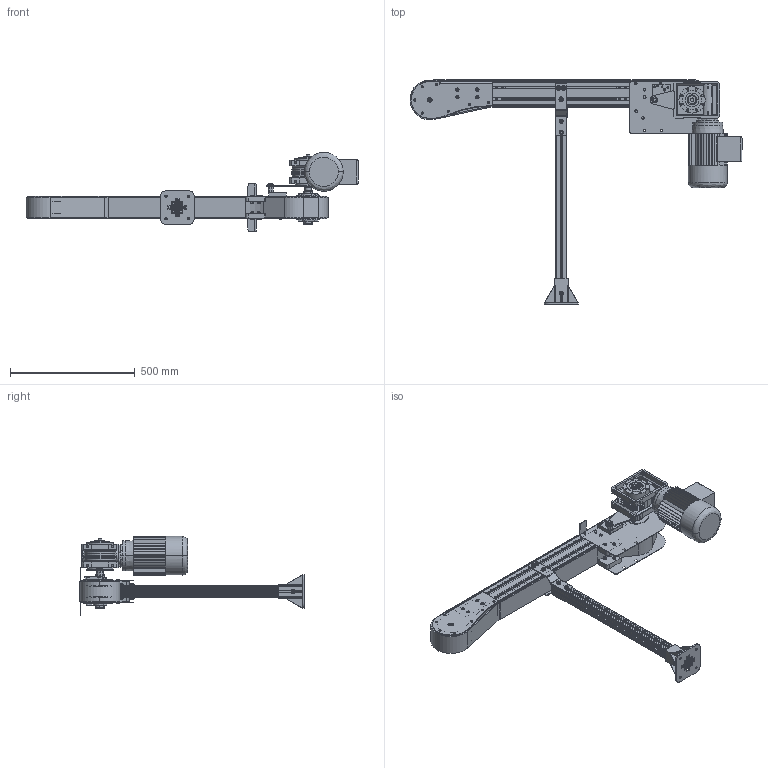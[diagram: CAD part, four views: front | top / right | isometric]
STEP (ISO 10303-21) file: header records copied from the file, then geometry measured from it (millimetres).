
FILE_DESCRIPTION (( 'STEP AP214' ), '1' );
FILE_NAME ('NASTRO_CATENA.step', '2026-05-08T11:39:20', ( 'Utente Windows' ), ( '' ), 'SwSTEP 2.0', 'SolidWorks 2024', '' );
FILE_SCHEMA (( 'AUTOMOTIVE_DESIGN' ));
Length unit declared in the file: millimetre
Products named in the file (57): 084.301.000 VITI ALUSIC1_084.301.003; VITI TCEI UNI 5931 INOX_M6x30 UNI 5931 INOX; VITI TSEI UNI 5933 INOX_0410UNI5933A2; K325_R_P; 2000.325.003; VITI TE UNI 5739 INOX_M8x20 UNI 5739 INOX; 2000.001.201-3; GRANI A PUNTA CONICA UNI 5927_M8x16 UNI 5927; 2000.325.001_Default<Lavorato>; 084.201.012-1; NASTRO_CATENA; RONDELLE FASCIA LARGA UNI 6593 INOX_8.4x32 UNI 6593 INOX; GRANI A PUNTA PIATTA UNI 5923_M8x20 UNI 5923; 2000.325.102; CATENA_DIRITTO; 2000.001.004-3; 2000.001.002; 2000.325.104-2; CH06P_DX; 2000.001.006-2; GAMBE_KP325_Default<A macchina>; 2000.001.213; VITI TE UNI 5739 INOX_M8x16 UNI 5739 INOX; 2000.325.201-1S; 084.302.000 DADI ALUSIC 13x13-1_084.302.004; 084.312.006; 2000.001.003-3; DADI ESAGONALI AUTOBLOCCANTI UNI 7473 INOX_M6 UNI 7473 INOX; 0630UNI8735; VITI TE UNI 5739 INOX_M6x20 UNI 5739 INOX; 2000.001.011; 084.301.000 VITI ALUSIC_084.301.002; K325_DIR_63_P_DX_MOTORE A DESTRA; K325_1_Default<A macchina>; 2000.325.204-4; 2000.001.001; RONDELLE UNI 6592_8.4x17 UNI 6592; 084.802.027; 2000.001.202-3; 2000.325.105-2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
Assembly tree (134 placements, depth 4):
  NASTRO_CATENA
    K325_1_Default<A macchina>
    K325_DIR_63_P_DX_MOTORE A DESTRA
      084.802.027
      2000.001.006-2  x2
      2000.325.003  x2
      2000.001.001  x2
      2000.325.001_Default<Lavorato>  x2
      2000.325.104-2
      2000.001.004-3
      084.808.005-1
      2000.325.102
      2000.001.011
      2000.001.003-3
      2000.325.105-2
      CHIAVETTE_A 8x7x50 UNI 6604-69  x3
      SBPF205  x2
      663151_NS880T12R25
      VITI TSEI UNI 5933 INOX_0410UNI5933A2  x8
      GRANI A PUNTA CONICA UNI 5927_M8x16 UNI 5927  x8
      VITI TCEI UNI 5931 INOX_M6x30 UNI 5931 INOX  x2
      VITI TE UNI 5739 INOX_M8x20 UNI 5739 INOX
      RONDELLE FASCIA LARGA UNI 6593 INOX_8.4x32 UNI 6593 INOX
      GRANI A PUNTA PIATTA UNI 5923_M8x20 UNI 5923
      RONDELLE FASCIA LARGA UNI 6593 INOX_8.4x24 UNI 6593 INOX
      VITI TE UNI 5739 INOX_M8x16 UNI 5739 INOX  x7
      DADI ESAGONALI AUTOBLOCCANTI UNI 7473 INOX_M6 UNI 7473 INOX  x4
      PU008.012.025N
      084.312.006  x6
      VITI TE UNI 5739 INOX_M6x30 UNI 5739 INOX  x4
      VITI TE UNI 5739 INOX_M6x20 UNI 5739 INOX  x6
    K325_R_P
      2000.001.201-3
      2000.001.202-3
      PROFILO POLIZENE_209<A macchina>  x2
      2000.325.201-1S
      2000.325.205-4
      2000.325.204-4
      2000.001.002  x2
      2000.001.001  x2
      2000.325.001_Default<Lavorato>  x2
      2000.001.213
        2000.001.212  x2
        0630UNI8735  x2
    GAMBE_KP325_Default<A macchina>  x2
    FLANGIA_GAMBE_KP325  x4
      2000.325.620
      084.302.016
      084.301.000 VITI ALUSIC_084.301.002
      084.302.000 DADI ALUSIC 13x13-1_084.302.004
      RONDELLE UNI 6592_8.4x17 UNI 6592
    BASE_GAMBE_KB325  x2
      084.409.002
      RONDELLE UNI 6592_8.4x17 UNI 6592
      084.301.000 VITI ALUSIC1_084.301.003
      084.302.000 DADI ALUSIC 13x13-1_084.302.009
    084.201.012-1  x2
    CH06P_DX
    CATENA_DIRITTO
    2000.882.750
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Bounding box: 1329.46 x 900.12 x 316.61 mm (x, y, z)
Volume: 13997693.3 mm3; surface area: 4315024 mm2
Topology: 192 solids, 203 shells, 6149 faces, 15260 edges, 9639 vertices
Faces by surface type: plane 3021, cylinder 2035, cone 588, torus 360, bspline 145
Entity records: 101613 total; most frequent: CARTESIAN_POINT 20564, DIRECTION 17189, ORIENTED_EDGE 16094, EDGE_CURVE 8058, AXIS2_PLACEMENT_3D 6215, VERTEX_POINT 5057, LINE 4759, VECTOR 4759
